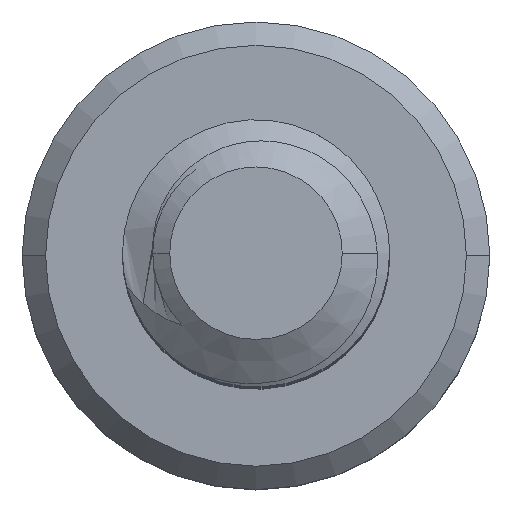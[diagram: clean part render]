
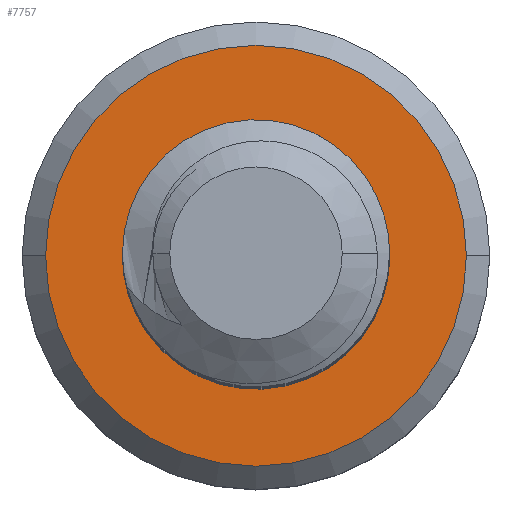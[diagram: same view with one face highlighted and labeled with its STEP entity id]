
A CAD part, top view. The second image highlights one B-rep face of the part: STEP entity #7757.
In plain terms, the highlighted planar face has unit normal (0, 0, 1).
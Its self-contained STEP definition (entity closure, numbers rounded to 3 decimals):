
#73 = CARTESIAN_POINT ( 'NONE',  ( -1.205, -1.305, -22. ) ) ;
#89 = CARTESIAN_POINT ( 'NONE',  ( 1.894, -0.643, -22. ) ) ;
#125 = CARTESIAN_POINT ( 'NONE',  ( 1.144, 1.36, -22. ) ) ;
#273 = DIRECTION ( 'NONE',  ( 1., 0., 0. ) ) ;
#274 = EDGE_CURVE ( 'NONE', #7193, #2980, #5120, .T. ) ;
#340 = ORIENTED_EDGE ( 'NONE', *, *, #3908, .T. ) ;
#614 = CARTESIAN_POINT ( 'NONE',  ( -1.632, -0.181, -22. ) ) ;
#772 = CIRCLE ( 'NONE', #3561, 3.15 ) ;
#877 = CARTESIAN_POINT ( 'NONE',  ( -0.675, 1.39, -22. ) ) ;
#903 = DIRECTION ( 'NONE',  ( 0., 0., 1. ) ) ;
#1035 = VERTEX_POINT ( 'NONE', #5977 ) ;
#1069 = ORIENTED_EDGE ( 'NONE', *, *, #5428, .F. ) ;
#1270 = CARTESIAN_POINT ( 'NONE',  ( 0., 0., -22. ) ) ;
#1309 = CARTESIAN_POINT ( 'NONE',  ( -0.328, -1.861, -22. ) ) ;
#1337 = CARTESIAN_POINT ( 'NONE',  ( -1.553, -0.7, -22. ) ) ;
#1360 = DIRECTION ( 'NONE',  ( -1., 0., 0. ) ) ;
#1382 = CARTESIAN_POINT ( 'NONE',  ( 1.906, 0.225, -22. ) ) ;
#1384 = EDGE_LOOP ( 'NONE', ( #3071, #3701 ) ) ;
#1602 = ORIENTED_EDGE ( 'NONE', *, *, #274, .T. ) ;
#1829 = B_SPLINE_CURVE_WITH_KNOTS ( 'NONE', 3,
 ( #7609, #3231, #5649, #7639, #2608, #1309, #6979, #8153, #3813, #73, #3205, #7555, #1337, #5063, #614, #3793, #3846, #1918 ),
 .UNSPECIFIED., .F., .F.,
 ( 4, 2, 2, 2, 2, 2, 2, 2, 4 ),
 ( 0., 0.001, 0.001, 0.002, 0.002, 0.003, 0.003, 0.004, 0.004 ),
 .UNSPECIFIED. ) ;
#1916 = EDGE_CURVE ( 'NONE', #6212, #1035, #1829, .T. ) ;
#1918 = CARTESIAN_POINT ( 'NONE',  ( -1.463, 0.497, -22. ) ) ;
#1962 = DIRECTION ( 'NONE',  ( 0., 0., 1. ) ) ;
#1993 = CARTESIAN_POINT ( 'NONE',  ( -0.528, 1.487, -22. ) ) ;
#2215 = CARTESIAN_POINT ( 'NONE',  ( 0., 0., -22. ) ) ;
#2450 = CARTESIAN_POINT ( 'NONE',  ( 1.894, -0.643, -22. ) ) ;
#2568 = CARTESIAN_POINT ( 'NONE',  ( -0.675, 1.39, -22. ) ) ;
#2608 = CARTESIAN_POINT ( 'NONE',  ( 0.014, -1.923, -22. ) ) ;
#2679 = CARTESIAN_POINT ( 'NONE',  ( -0.026, 1.639, -22. ) ) ;
#2980 = VERTEX_POINT ( 'NONE', #2450 ) ;
#3033 = EDGE_CURVE ( 'NONE', #5861, #3691, #4862, .T. ) ;
#3071 = ORIENTED_EDGE ( 'NONE', *, *, #3033, .T. ) ;
#3205 = CARTESIAN_POINT ( 'NONE',  ( -1.315, -1.166, -22. ) ) ;
#3231 = CARTESIAN_POINT ( 'NONE',  ( 0.708, -1.86, -22. ) ) ;
#3377 = AXIS2_PLACEMENT_3D ( 'NONE', #1270, #1962, #6945 ) ;
#3553 = PLANE ( 'NONE',  #5683 ) ;
#3561 = AXIS2_PLACEMENT_3D ( 'NONE', #3872, #4543, #1360 ) ;
#3646 = CIRCLE ( 'NONE', #4571, 2. ) ;
#3691 = VERTEX_POINT ( 'NONE', #7001 ) ;
#3701 = ORIENTED_EDGE ( 'NONE', *, *, #6273, .T. ) ;
#3751 = EDGE_LOOP ( 'NONE', ( #1069, #5362, #340, #1602 ) ) ;
#3793 = CARTESIAN_POINT ( 'NONE',  ( -1.59, 0.169, -22. ) ) ;
#3813 = CARTESIAN_POINT ( 'NONE',  ( -0.953, -1.545, -22. ) ) ;
#3825 = FACE_OUTER_BOUND ( 'NONE', #1384, .T. ) ;
#3846 = CARTESIAN_POINT ( 'NONE',  ( -1.54, 0.338, -22. ) ) ;
#3865 = CARTESIAN_POINT ( 'NONE',  ( 1.746, 0.722, -22. ) ) ;
#3872 = CARTESIAN_POINT ( 'NONE',  ( 0., 0., -22. ) ) ;
#3908 = EDGE_CURVE ( 'NONE', #1035, #7193, #3970, .T. ) ;
#3970 = CIRCLE ( 'NONE', #7692, 1.545 ) ;
#3978 = CARTESIAN_POINT ( 'NONE',  ( 0., 0., -22. ) ) ;
#4092 = DIRECTION ( 'NONE',  ( 0., 0., -1. ) ) ;
#4146 = CARTESIAN_POINT ( 'NONE',  ( -3.15, 0., -22. ) ) ;
#4543 = DIRECTION ( 'NONE',  ( 0., 0., 1. ) ) ;
#4571 = AXIS2_PLACEMENT_3D ( 'NONE', #6528, #903, #273 ) ;
#4704 = DIRECTION ( 'NONE',  ( 1., 0., 0. ) ) ;
#4833 = FACE_BOUND ( 'NONE', #3751, .T. ) ;
#4862 = CIRCLE ( 'NONE', #3377, 3.15 ) ;
#5063 = CARTESIAN_POINT ( 'NONE',  ( -1.625, -0.354, -22. ) ) ;
#5107 = CARTESIAN_POINT ( 'NONE',  ( 0.994, 1.449, -22. ) ) ;
#5120 = B_SPLINE_CURVE_WITH_KNOTS ( 'NONE', 3,
 ( #2568, #1993, #6399, #2679, #7658, #7629, #5743, #5107, #125, #5715, #3865, #1382, #6459, #6972, #7572, #89 ),
 .UNSPECIFIED., .F., .F.,
 ( 4, 2, 2, 2, 2, 2, 2, 4 ),
 ( 0., 0.001, 0.001, 0.002, 0.002, 0.003, 0.004, 0.004 ),
 .UNSPECIFIED. ) ;
#5336 = CARTESIAN_POINT ( 'NONE',  ( 0.874, -1.799, -22. ) ) ;
#5362 = ORIENTED_EDGE ( 'NONE', *, *, #1916, .T. ) ;
#5428 = EDGE_CURVE ( 'NONE', #6212, #2980, #3646, .T. ) ;
#5649 = CARTESIAN_POINT ( 'NONE',  ( 0.538, -1.898, -22. ) ) ;
#5683 = AXIS2_PLACEMENT_3D ( 'NONE', #2215, #7924, #6025 ) ;
#5715 = CARTESIAN_POINT ( 'NONE',  ( 1.549, 1.027, -22. ) ) ;
#5743 = CARTESIAN_POINT ( 'NONE',  ( 0.668, 1.582, -22. ) ) ;
#5861 = VERTEX_POINT ( 'NONE', #4146 ) ;
#5977 = CARTESIAN_POINT ( 'NONE',  ( -1.463, 0.497, -22. ) ) ;
#6025 = DIRECTION ( 'NONE',  ( -1., 0., 0. ) ) ;
#6212 = VERTEX_POINT ( 'NONE', #5336 ) ;
#6273 = EDGE_CURVE ( 'NONE', #3691, #5861, #772, .T. ) ;
#6399 = CARTESIAN_POINT ( 'NONE',  ( -0.368, 1.556, -22. ) ) ;
#6459 = CARTESIAN_POINT ( 'NONE',  ( 1.937, 0.051, -22. ) ) ;
#6528 = CARTESIAN_POINT ( 'NONE',  ( 0., 0., -22. ) ) ;
#6945 = DIRECTION ( 'NONE',  ( -1., 0., 0. ) ) ;
#6972 = CARTESIAN_POINT ( 'NONE',  ( 1.951, -0.296, -22. ) ) ;
#6979 = CARTESIAN_POINT ( 'NONE',  ( -0.497, -1.804, -22. ) ) ;
#7001 = CARTESIAN_POINT ( 'NONE',  ( 3.15, 0., -22. ) ) ;
#7193 = VERTEX_POINT ( 'NONE', #877 ) ;
#7555 = CARTESIAN_POINT ( 'NONE',  ( -1.488, -0.862, -22. ) ) ;
#7572 = CARTESIAN_POINT ( 'NONE',  ( 1.934, -0.472, -22. ) ) ;
#7609 = CARTESIAN_POINT ( 'NONE',  ( 0.874, -1.799, -22. ) ) ;
#7629 = CARTESIAN_POINT ( 'NONE',  ( 0.499, 1.622, -22. ) ) ;
#7639 = CARTESIAN_POINT ( 'NONE',  ( 0.189, -1.929, -22. ) ) ;
#7658 = CARTESIAN_POINT ( 'NONE',  ( 0.149, 1.65, -22. ) ) ;
#7692 = AXIS2_PLACEMENT_3D ( 'NONE', #3978, #4092, #4704 ) ;
#7757 = ADVANCED_FACE ( 'NONE', ( #3825, #4833 ), #3553, .F. ) ;
#7924 = DIRECTION ( 'NONE',  ( 0., 0., -1. ) ) ;
#8153 = CARTESIAN_POINT ( 'NONE',  ( -0.807, -1.647, -22. ) ) ;
